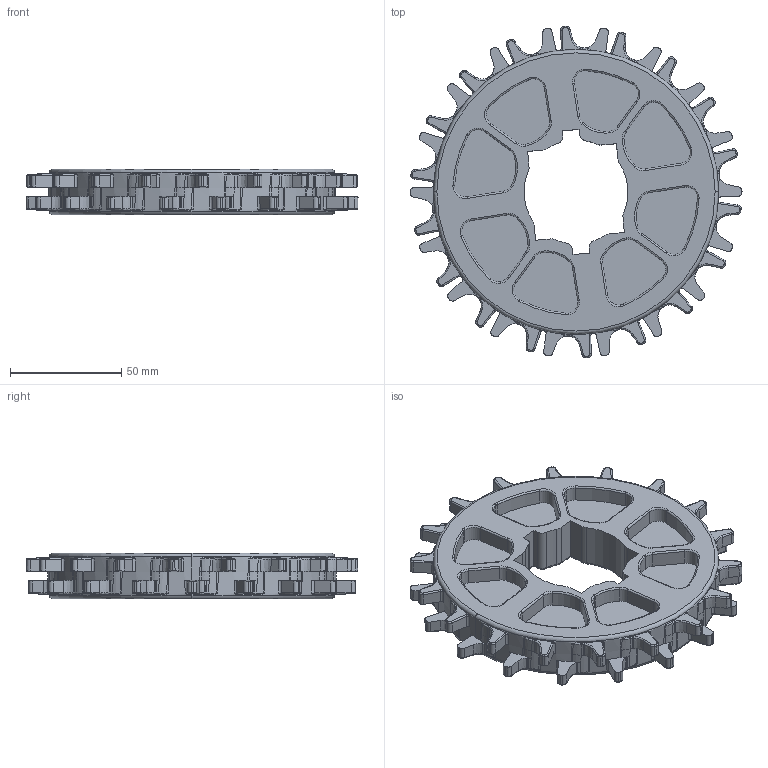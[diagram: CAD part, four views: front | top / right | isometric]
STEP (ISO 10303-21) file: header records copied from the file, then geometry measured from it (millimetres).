
FILE_DESCRIPTION(/* description */ (''),/* implementation_level */ '2;1');
FILE_NAME(/* name */ 'HS-500-18T-2R.stp',/* time_stamp */ '2023-04-15T08:02:50+08:00',/* author */ (''),/* organization */ (''),/* preprocessor_version */ 'ST-DEVELOPER v15',/* originating_system */ 'SIEMENS PLM Software NX 8.5',/* authorisation */ '');
FILE_SCHEMA (('AP203_CONFIGURATION_CONTROLLED_3D_DESIGN_OF_MECHANICAL_PARTS_AND_ASSEMBLIES_MIM_LF { 1 0 10303 403 2 1 2}'));
Products named in the file (1): Admi1C3C3E472wfm
Bounding box: 148.95 x 148.69 x 20.4 mm (x, y, z)
Volume: 167211.9 mm3; surface area: 50437.9 mm2
Topology: 1 solids, 1 shells, 1334 faces, 3514 edges, 2214 vertices
Faces by surface type: cylinder 422, bspline 378, torus 182, cone 180, plane 172
Entity records: 52515 total; most frequent: CARTESIAN_POINT 24004, ORIENTED_EDGE 7028, DIRECTION 4517, EDGE_CURVE 3514, VERTEX_POINT 2214, AXIS2_PLACEMENT_3D 1943, B_SPLINE_CURVE_WITH_KNOTS 1789, EDGE_LOOP 1368
